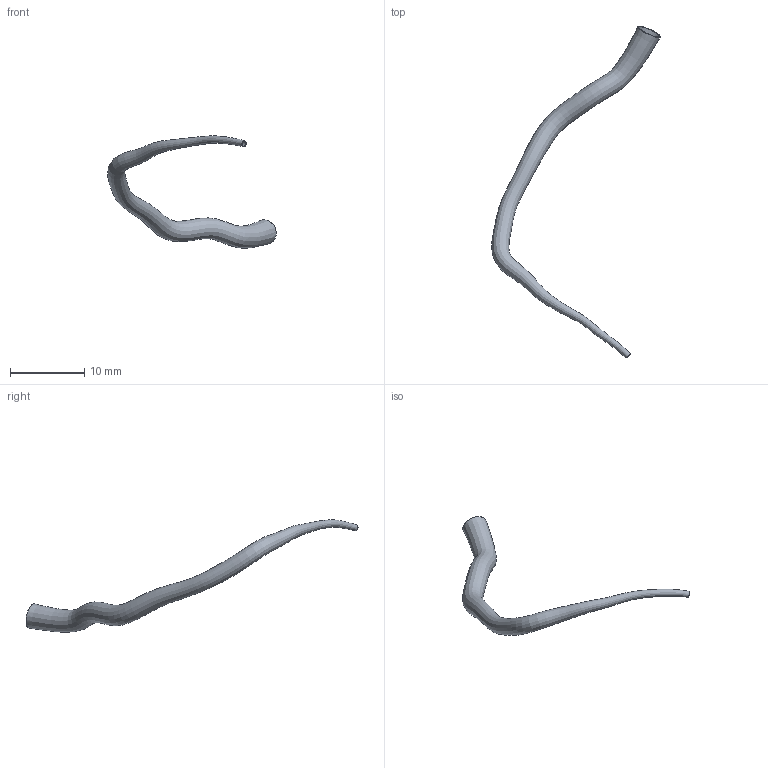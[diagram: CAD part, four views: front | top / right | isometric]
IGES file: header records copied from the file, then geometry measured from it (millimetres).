
Global section: file name: C:\Documents and Settings\Administrator\Desktop\FDA-Pig\Domestic LCA\Pig_000010\lcx.seg.ed.igs; native system: Rhinoceros ( May 19 2006 ); preprocessor: Trout Lake IGES 012 May 19 2006; date: 111205.183816; units: centimetre
Bounding box: 22.74 x 44.79 x 15.15 mm (x, y, z)
Surface area: 825.8 mm2 (no closed solid volume)
Topology: 0 solids, 0 shells, 4 faces, 13 edges, 10 vertices
Faces by surface type: bspline 4
